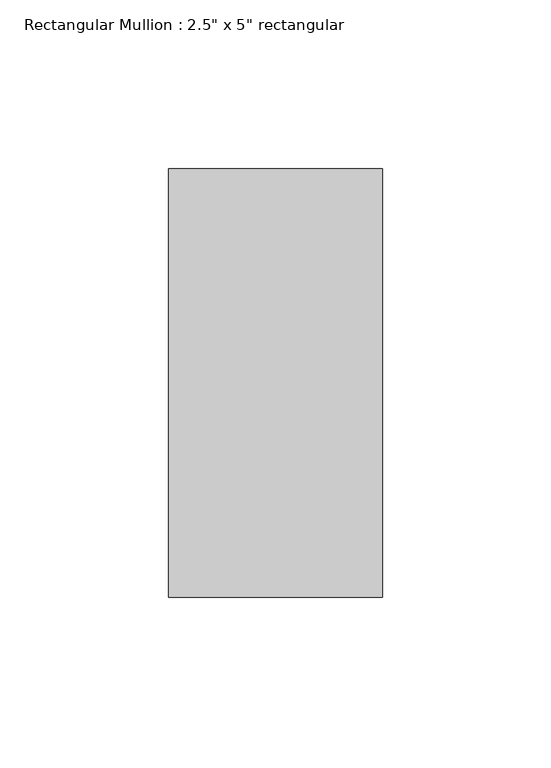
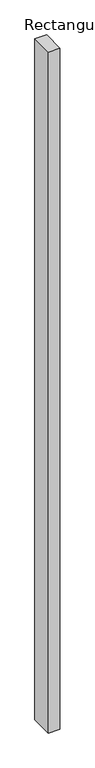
"""IFC4 building model written with IfcOpenShell, lengths in millimetres: member geometry."""

from ifc_helpers import new_model, si_unit, frame, origin, place, context, project, spatial, polyline, outline, extrude, source, transform, mapped, element, save


def member_fa179ced(model_context):
    return source(origin(), model_context, "Body", "SweptSolid", [
        extrude(outline(polyline([(0.0, 63.5), (0.0, -63.5), (-63.5, -63.5), (-63.5, 63.5), (0.0, 63.5)])), frame((0.0, 0.0, -3927.2687766), z_axis=(0.0, 0.0, 1.0), x_axis=(1.0, 0.0, 0.0)), (0.0, 0.0, 1.0), 3927.2687766),
    ])


if __name__ == "__main__":
    model = new_model("IFC4")
    model_context = context("Model", 3, world=origin())
    ifc_project = project(units=[si_unit("LENGTHUNIT", "METRE", prefix="MILLI")], contexts=[model_context])
    site = spatial("IfcSite", under=ifc_project)
    building = spatial("IfcBuilding", under=site)
    placement = place(None, origin())
    member_shape = member_fa179ced(model_context)
    element("IfcMember", 1, ObjectType="Rectangular Mullion : 2.5\" x 5\" rectangular", at=placement, inside=building, context=model_context, shape_type="MappedRepresentation", body=[
        mapped(member_shape, transform((0.0, 0.0, 0.0), x_axis=(1.0, 0.0, 0.0), y_axis=(0.0, 1.0, 0.0), z_axis=(0.0, 0.0, 1.0))),
    ])
    save(model, "model.ifc")
